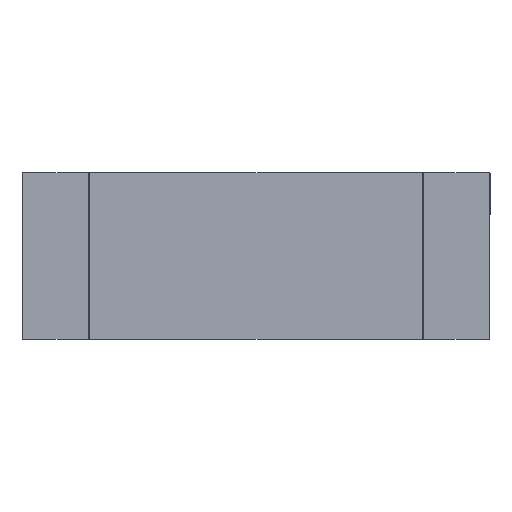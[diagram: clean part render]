
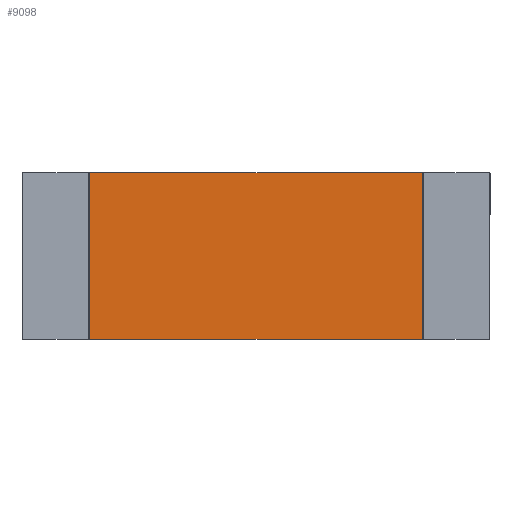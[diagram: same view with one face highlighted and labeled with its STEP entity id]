
A CAD part, top view. The second image highlights one B-rep face of the part: STEP entity #9098.
In plain terms, the highlighted planar face has unit normal (0, 0, 1).
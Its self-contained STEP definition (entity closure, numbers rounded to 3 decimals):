
#8813=CARTESIAN_POINT('',(-999.,-497.,38.0));
#8814=VERTEX_POINT('',#8813);
#8821=CARTESIAN_POINT('',(-999.,497.,38.0));
#8822=VERTEX_POINT('',#8821);
#8823=CARTESIAN_POINT('',(-999.,-497.,38.0));
#8824=DIRECTION('',(0.0,1.0,0.0));
#8825=VECTOR('',#8824,994.);
#8826=LINE('',#8823,#8825);
#8827=EDGE_CURVE('',#8814,#8822,#8826,.T.);
#8844=CARTESIAN_POINT('',(-997.,499.,38.0));
#8845=VERTEX_POINT('',#8844);
#8854=CARTESIAN_POINT('',(-997.,497.,38.0));
#8855=DIRECTION('',(0.0,0.0,-1.));
#8856=DIRECTION('',(-0.707,0.707,0.0));
#8857=AXIS2_PLACEMENT_3D('',#8854,#8855,#8856);
#8858=CIRCLE('',#8857,2.);
#8859=EDGE_CURVE('',#8822,#8845,#8858,.T.);
#8869=CARTESIAN_POINT('',(997.,499.,38.0));
#8870=VERTEX_POINT('',#8869);
#8879=CARTESIAN_POINT('',(-997.,499.,38.0));
#8880=DIRECTION('',(1.0,0.0,0.0));
#8881=VECTOR('',#8880,1994.0);
#8882=LINE('',#8879,#8881);
#8883=EDGE_CURVE('',#8845,#8870,#8882,.T.);
#8893=CARTESIAN_POINT('',(999.,497.,38.0));
#8894=VERTEX_POINT('',#8893);
#8903=CARTESIAN_POINT('',(997.,497.,38.0));
#8904=DIRECTION('',(0.0,0.0,-1.));
#8905=DIRECTION('',(0.707,0.707,0.0));
#8906=AXIS2_PLACEMENT_3D('',#8903,#8904,#8905);
#8907=CIRCLE('',#8906,2.);
#8908=EDGE_CURVE('',#8870,#8894,#8907,.T.);
#8918=CARTESIAN_POINT('',(999.,-497.,38.0));
#8919=VERTEX_POINT('',#8918);
#8935=CARTESIAN_POINT('',(999.,497.,38.0));
#8936=DIRECTION('',(0.0,-1.0,0.0));
#8937=VECTOR('',#8936,994.0);
#8938=LINE('',#8935,#8937);
#8939=EDGE_CURVE('',#8894,#8919,#8938,.T.);
#8949=CARTESIAN_POINT('',(997.,-499.,38.0));
#8950=VERTEX_POINT('',#8949);
#8967=CARTESIAN_POINT('',(997.,-497.,38.0));
#8968=DIRECTION('',(0.0,0.0,-1.));
#8969=DIRECTION('',(0.707,-0.707,0.0));
#8970=AXIS2_PLACEMENT_3D('',#8967,#8968,#8969);
#8971=CIRCLE('',#8970,2.);
#8972=EDGE_CURVE('',#8919,#8950,#8971,.T.);
#8982=CARTESIAN_POINT('',(-997.,-499.,38.0));
#8983=VERTEX_POINT('',#8982);
#8999=CARTESIAN_POINT('',(997.,-499.,38.0));
#9000=DIRECTION('',(-1.0,0.0,0.0));
#9001=VECTOR('',#9000,1994.0);
#9002=LINE('',#8999,#9001);
#9003=EDGE_CURVE('',#8950,#8983,#9002,.T.);
#9022=CARTESIAN_POINT('',(-997.,-497.,38.0));
#9023=DIRECTION('',(0.0,0.0,-1.));
#9024=DIRECTION('',(-0.707,-0.707,0.0));
#9025=AXIS2_PLACEMENT_3D('',#9022,#9023,#9024);
#9026=CIRCLE('',#9025,2.);
#9027=EDGE_CURVE('',#8983,#8814,#9026,.T.);
#9083=CARTESIAN_POINT('',(0.,0.,38.0));
#9084=DIRECTION('',(0.0,0.0,1.0));
#9085=DIRECTION('',(0.0,-1.0,0.0));
#9086=AXIS2_PLACEMENT_3D('',#9083,#9084,#9085);
#9087=PLANE('',#9086);
#9088=ORIENTED_EDGE('',*,*,#8827,.F.);
#9089=ORIENTED_EDGE('',*,*,#9027,.F.);
#9090=ORIENTED_EDGE('',*,*,#9003,.F.);
#9091=ORIENTED_EDGE('',*,*,#8972,.F.);
#9092=ORIENTED_EDGE('',*,*,#8939,.F.);
#9093=ORIENTED_EDGE('',*,*,#8908,.F.);
#9094=ORIENTED_EDGE('',*,*,#8883,.F.);
#9095=ORIENTED_EDGE('',*,*,#8859,.F.);
#9096=EDGE_LOOP('',(#9088,#9089,#9090,#9091,#9092,#9093,#9094,#9095));
#9097=FACE_OUTER_BOUND('',#9096,.T.);
#9098=ADVANCED_FACE('',(#9097),#9087,.T.);
